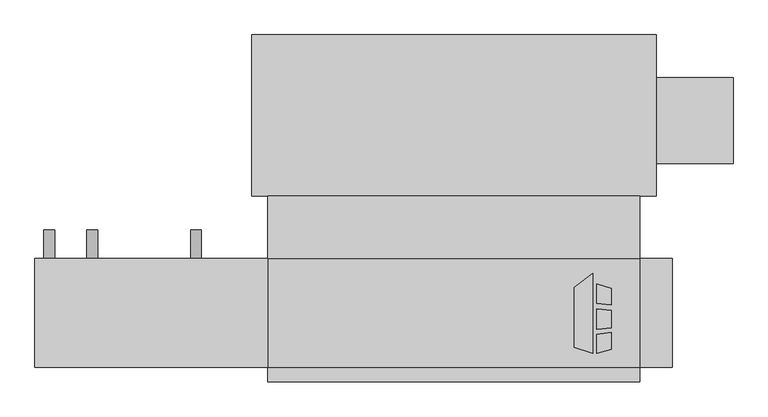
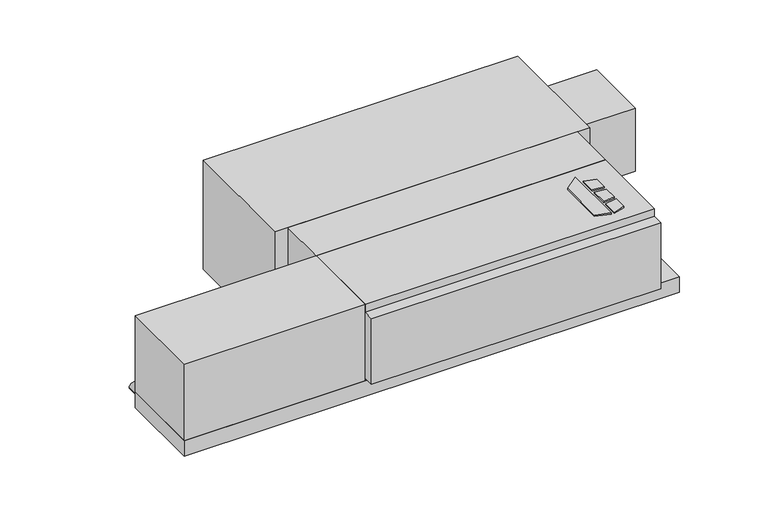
"""IFC4 building model written with IfcOpenShell, lengths in millimetres: proxy geometry, Concealed_Horizontal_Fan_Coil_Unit_With_Plenum_-_CPF_-_IEC_-_4-Pipe_LH : Size 04 - 115v/60Hz/1Ph - 4/1 Coil."""

from ifc_helpers import new_model, si_unit, point, frame, frame_2d, origin, origin_with_axes, place, context, project, spatial, polyline, circle_curve, trimmed, segment, composite_curve, outline, extrude, source, transform, mapped, element, save


def mechanical_equipment_5c77c425(model_context):
    return source(origin(), model_context, "Body", "SweptSolid", [
        extrude(outline(polyline([(366.4019761, -193.0453476), (398.9602728, -167.6080184), (398.9602728, -309.5625), (366.4019761, -299.3429201), (366.4019761, -193.0453476)])), origin_with_axes(), (0.0, 0.0, 1.0), 3.175),
        extrude(outline(polyline([(405.7186058, -220.917352), (405.7186058, -186.4374379), (431.8, -194.6240115), (431.8, -224.1197446), (405.7186058, -220.917352)])), origin_with_axes(), (0.0, 0.0, 1.0), 3.175),
        extrude(outline(polyline([(431.8, -302.5740115), (405.7186058, -309.5625), (405.7186058, -276.3411996), (431.8, -272.7993564), (431.8, -302.5740115)])), origin_with_axes(), (0.0, 0.0, 1.0), 3.175),
        extrude(outline(polyline([(431.8, -233.2013277), (431.8, -264.451483), (405.7186058, -267.192748), (405.7186058, -231.3350378), (431.8, -233.2013277)])), origin_with_axes(), (0.0, 0.0, 1.0), 3.175),
        extrude(outline(polyline([(-177.8, -30.1625), (482.6, -30.1625), (482.6, -141.2875), (-177.8, -141.2875), (-177.8, -30.1625)])), frame((0.0, 0.0, -184.15), z_axis=(0.0, 0.0, 1.0), x_axis=(1.0, 0.0, 0.0)), (0.0, 0.0, 1.0), 184.15),
        extrude(outline(polyline([(-590.55, -334.9625), (-590.55, -141.2875), (-177.8, -141.2875), (-177.8, -334.9625), (-590.55, -334.9625)])), frame((0.0, 0.0, -184.15), z_axis=(0.0, 0.0, 1.0), x_axis=(1.0, 0.0, 0.0)), (0.0, 0.0, 1.0), 184.15),
        extrude(outline(polyline([(539.75, -141.2875), (539.75, -334.9625), (-590.55, -334.9625), (-590.55, -141.2875), (539.75, -141.2875)])), frame((0.0, 0.0, -222.25), z_axis=(0.0, 0.0, 1.0), x_axis=(1.0, 0.0, 0.0)), (0.0, 0.0, 1.0), 38.1),
        extrude(outline(composite_curve([segment(trimmed(circle_curve(frame_2d((-158.75, -488.95)), 9.525), [point((-158.75, -479.425))], [point((-158.75, -498.475))], False, "CARTESIAN"), True, "CONTINUOUS"), segment(trimmed(circle_curve(frame_2d((-158.75, -488.95)), 9.525), [point((-158.75, -498.475))], [point((-158.75, -479.425))], False, "CARTESIAN"), True, "CONTINUOUS")], self_intersect=False)), frame((0.0, -141.2875, 0.0), z_axis=(0.0, 1.0, 0.0), x_axis=(0.0, 0.0, 1.0)), (0.0, 0.0, 1.0), 50.8),
        extrude(outline(composite_curve([segment(trimmed(circle_curve(frame_2d((-69.85, -488.95)), 9.525), [point((-69.85, -479.425))], [point((-69.85, -498.475))], False, "CARTESIAN"), True, "CONTINUOUS"), segment(trimmed(circle_curve(frame_2d((-69.85, -488.95)), 9.525), [point((-69.85, -498.475))], [point((-69.85, -479.425))], False, "CARTESIAN"), True, "CONTINUOUS")], self_intersect=False)), frame((0.0, -141.2875, 0.0), z_axis=(0.0, 1.0, 0.0), x_axis=(0.0, 0.0, 1.0)), (0.0, 0.0, 1.0), 50.8),
        extrude(outline(composite_curve([segment(trimmed(circle_curve(frame_2d((-69.85, -304.8)), 9.525), [point((-69.85, -295.275))], [point((-69.85, -314.325))], False, "CARTESIAN"), True, "CONTINUOUS"), segment(trimmed(circle_curve(frame_2d((-69.85, -304.8)), 9.525), [point((-69.85, -314.325))], [point((-69.85, -295.275))], False, "CARTESIAN"), True, "CONTINUOUS")], self_intersect=False)), frame((0.0, -141.2875, 0.0), z_axis=(0.0, 1.0, 0.0), x_axis=(0.0, 0.0, 1.0)), (0.0, 0.0, 1.0), 50.8),
        extrude(outline(composite_curve([segment(trimmed(circle_curve(frame_2d((-158.75, -304.8)), 9.525), [point((-158.75, -295.275))], [point((-158.75, -314.325))], False, "CARTESIAN"), True, "CONTINUOUS"), segment(trimmed(circle_curve(frame_2d((-158.75, -304.8)), 9.525), [point((-158.75, -314.325))], [point((-158.75, -295.275))], False, "CARTESIAN"), True, "CONTINUOUS")], self_intersect=False)), frame((0.0, -141.2875, 0.0), z_axis=(0.0, 1.0, 0.0), x_axis=(0.0, 0.0, 1.0)), (0.0, 0.0, 1.0), 50.8),
        extrude(outline(composite_curve([segment(trimmed(circle_curve(frame_2d((-209.55, -565.15)), 9.525), [point((-209.55, -574.675))], [point((-209.55, -555.625))], False, "CARTESIAN"), True, "CONTINUOUS"), segment(trimmed(circle_curve(frame_2d((-209.55, -565.15)), 9.525), [point((-209.55, -555.625))], [point((-209.55, -574.675))], False, "CARTESIAN"), True, "CONTINUOUS")], self_intersect=False)), frame((0.0, -141.2875, 0.0), z_axis=(0.0, 1.0, 0.0), x_axis=(0.0, 0.0, 1.0)), (0.0, 0.0, 1.0), 50.8),
        extrude(outline(polyline([(482.6, -334.9625), (482.6, -360.3625), (-177.8, -360.3625), (-177.8, -334.9625), (482.6, -334.9625)])), frame((0.0, 0.0, -177.8), z_axis=(0.0, 0.0, 1.0), x_axis=(1.0, 0.0, 0.0)), (0.0, 0.0, 1.0), 158.75),
        extrude(outline(polyline([(482.6, -334.9625), (-177.8, -334.9625), (-177.8, -141.2875), (482.6, -141.2875), (482.6, -334.9625)])), frame((0.0, 0.0, -184.15), z_axis=(0.0, 0.0, 1.0), x_axis=(1.0, 0.0, 0.0)), (0.0, 0.0, 1.0), 184.15),
        extrude(outline(polyline([(511.175, 26.9875), (511.175, 179.3875), (647.7, 179.3875), (647.7, 26.9875), (511.175, 26.9875)])), frame((0.0, 0.0, -187.325), z_axis=(0.0, 0.0, 1.0), x_axis=(1.0, 0.0, 0.0)), (0.0, 0.0, 1.0), 152.4),
        extrude(outline(polyline([(-206.375, 255.5875), (511.175, 255.5875), (511.175, -30.1625), (-206.375, -30.1625), (-206.375, 255.5875)])), frame((0.0, 0.0, -263.525), z_axis=(0.0, 0.0, 1.0), x_axis=(1.0, 0.0, 0.0)), (0.0, 0.0, 1.0), 263.525),
    ])


if __name__ == "__main__":
    model = new_model("IFC4")
    model_context = context("Model", 3, world=origin())
    ifc_project = project(units=[si_unit("LENGTHUNIT", "METRE", prefix="MILLI")], contexts=[model_context])
    site = spatial("IfcSite", under=ifc_project)
    building = spatial("IfcBuilding", under=site)
    placement = place(None, origin())
    mechanical_equipment_shape = mechanical_equipment_5c77c425(model_context)
    element("IfcBuildingElementProxy", 1, Name="Concealed_Horizontal_Fan_Coil_Unit_With_Plenum_-_CPF_-_IEC_-_4-Pipe_LH : Size 04 - 115v/60Hz/1Ph - 4/1 Coil", ObjectType="Concealed_Horizontal_Fan_Coil_Unit_With_Plenum_-_CPF_-_IEC_-_4-Pipe_LH : Size 04 - 115v/60Hz/1Ph - 4/1 Coil", at=placement, inside=building, context=model_context, shape_type="MappedRepresentation", body=[
        mapped(mechanical_equipment_shape, transform((0.0, 0.0, 0.0), x_axis=(1.0, 0.0, 0.0), y_axis=(0.0, 1.0, 0.0), z_axis=(0.0, 0.0, 1.0))),
    ])
    save(model, "model.ifc")
